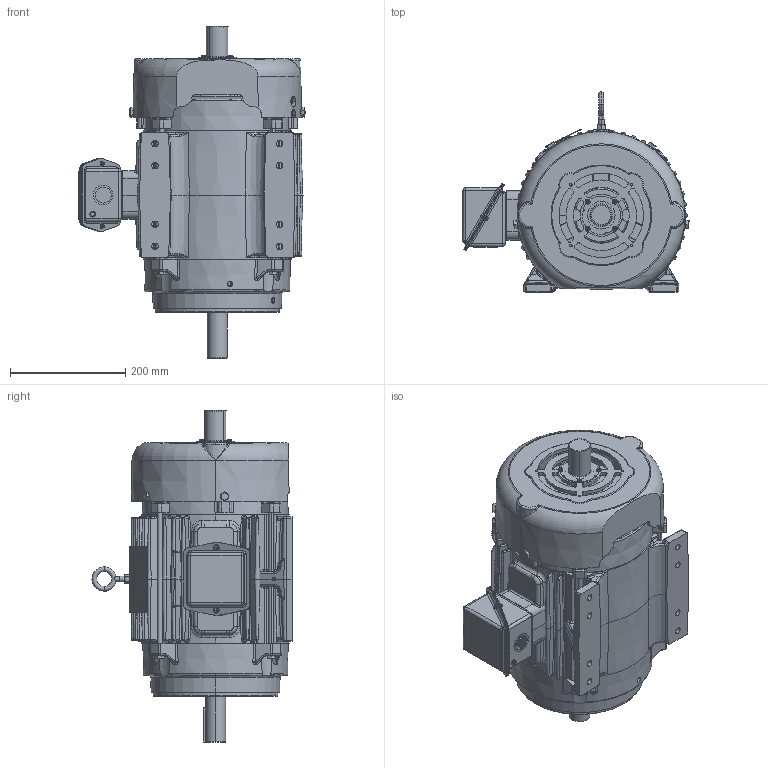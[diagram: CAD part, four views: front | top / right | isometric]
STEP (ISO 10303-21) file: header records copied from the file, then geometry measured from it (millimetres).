
FILE_DESCRIPTION (( 'STEP AP203' ), '1' );
FILE_NAME ('SS88574-875_F2_Rev4.STEP', '2018-07-13T06:40:32', ( '' ), ( '' ), 'SwSTEP 2.0', 'SolidWorks 2015', '' );
FILE_SCHEMA (( 'CONFIG_CONTROL_DESIGN' ));
Length unit declared in the file: inch
Products named in the file (1): SS88574-875_F2_Rev4
Bounding box: 391.77 x 346.74 x 575.4 mm (x, y, z)
Volume: 7193722.7 mm3; surface area: 1693592.9 mm2
Topology: 38 solids, 38 shells, 3595 faces, 8814 edges, 5288 vertices
Faces by surface type: plane 1029, bspline 908, cylinder 797, cone 484, torus 321, sphere 56
Entity records: 151555 total; most frequent: CARTESIAN_POINT 74364, ORIENTED_EDGE 17402, DIRECTION 14526, EDGE_CURVE 8701, AXIS2_PLACEMENT_3D 5870, VERTEX_POINT 5288, EDGE_LOOP 3855, FACE_OUTER_BOUND 3595
